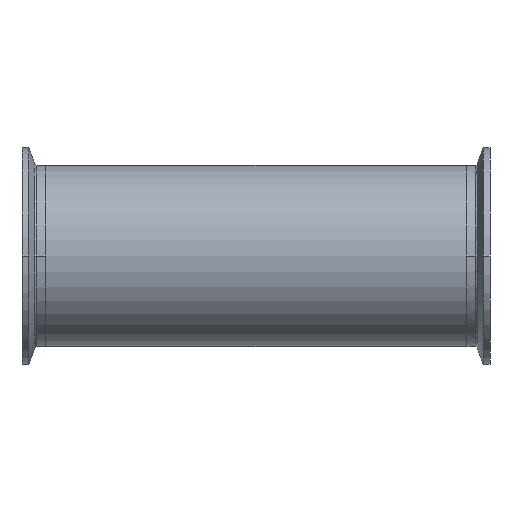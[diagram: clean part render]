
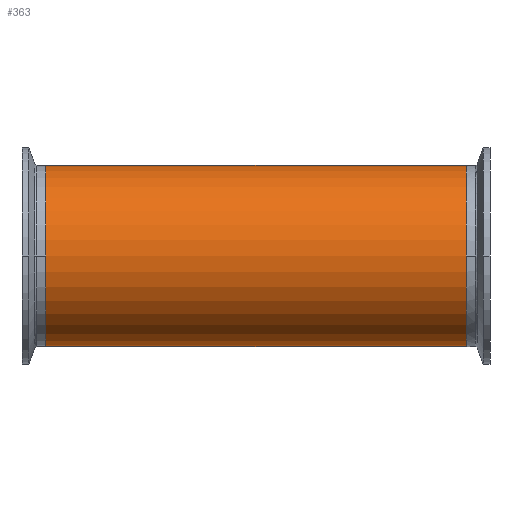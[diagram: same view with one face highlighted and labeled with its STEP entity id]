
A CAD part, front view. The second image highlights one B-rep face of the part: STEP entity #363.
In plain terms, the highlighted cylindrical face has radius 38.1 mm (diameter 76.2 mm), a partial arc.
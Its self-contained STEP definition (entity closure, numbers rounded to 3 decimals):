
#34 = ORIENTED_EDGE ( 'NONE', *, *, #2453, .T. ) ;
#363 = ADVANCED_FACE ( 'NONE', ( #4173 ), #1516, .T. ) ;
#380 = EDGE_CURVE ( 'NONE', #3259, #1761, #1721, .T. ) ;
#602 = DIRECTION ( 'NONE',  ( -1., 0., 0. ) ) ;
#626 = CARTESIAN_POINT ( 'NONE',  ( 196.163, 0., -38.1 ) ) ;
#704 = DIRECTION ( 'NONE',  ( 0., 0., 1. ) ) ;
#711 = CARTESIAN_POINT ( 'NONE',  ( 196.163, 0., 0. ) ) ;
#725 = DIRECTION ( 'NONE',  ( -1., 0., 0. ) ) ;
#741 = DIRECTION ( 'NONE',  ( -1., 0., 0. ) ) ;
#831 = CARTESIAN_POINT ( 'NONE',  ( 88.4, 0., 38.1 ) ) ;
#1024 = LINE ( 'NONE', #3992, #1852 ) ;
#1187 = CARTESIAN_POINT ( 'NONE',  ( 88.4, 0., 0. ) ) ;
#1463 = AXIS2_PLACEMENT_3D ( 'NONE', #711, #725, #704 ) ;
#1505 = CARTESIAN_POINT ( 'NONE',  ( -88.4, 0., -38.1 ) ) ;
#1516 = CYLINDRICAL_SURFACE ( 'NONE', #1463, 38.1 ) ;
#1550 = DIRECTION ( 'NONE',  ( 0., 0., 1. ) ) ;
#1553 = EDGE_LOOP ( 'NONE', ( #4175, #3886, #3791, #34 ) ) ;
#1563 = CARTESIAN_POINT ( 'NONE',  ( -88.4, 0., 0. ) ) ;
#1721 = LINE ( 'NONE', #626, #3218 ) ;
#1761 = VERTEX_POINT ( 'NONE', #1505 ) ;
#1852 = VECTOR ( 'NONE', #741, 1000. ) ;
#1867 = AXIS2_PLACEMENT_3D ( 'NONE', #1187, #3485, #1550 ) ;
#1911 = DIRECTION ( 'NONE',  ( 0., 0., 1. ) ) ;
#2095 = CIRCLE ( 'NONE', #1867, 38.1 ) ;
#2178 = EDGE_CURVE ( 'NONE', #4134, #2493, #1024, .T. ) ;
#2210 = CIRCLE ( 'NONE', #3040, 38.1 ) ;
#2453 = EDGE_CURVE ( 'NONE', #2493, #1761, #2210, .T. ) ;
#2493 = VERTEX_POINT ( 'NONE', #4124 ) ;
#3040 = AXIS2_PLACEMENT_3D ( 'NONE', #1563, #3818, #1911 ) ;
#3218 = VECTOR ( 'NONE', #602, 1000. ) ;
#3259 = VERTEX_POINT ( 'NONE', #3298 ) ;
#3298 = CARTESIAN_POINT ( 'NONE',  ( 88.4, 0., -38.1 ) ) ;
#3485 = DIRECTION ( 'NONE',  ( -1., 0., 0. ) ) ;
#3791 = ORIENTED_EDGE ( 'NONE', *, *, #2178, .T. ) ;
#3818 = DIRECTION ( 'NONE',  ( 1., 0., 0. ) ) ;
#3886 = ORIENTED_EDGE ( 'NONE', *, *, #4159, .T. ) ;
#3992 = CARTESIAN_POINT ( 'NONE',  ( 196.163, 0., 38.1 ) ) ;
#4124 = CARTESIAN_POINT ( 'NONE',  ( -88.4, 0., 38.1 ) ) ;
#4134 = VERTEX_POINT ( 'NONE', #831 ) ;
#4159 = EDGE_CURVE ( 'NONE', #3259, #4134, #2095, .T. ) ;
#4173 = FACE_OUTER_BOUND ( 'NONE', #1553, .T. ) ;
#4175 = ORIENTED_EDGE ( 'NONE', *, *, #380, .F. ) ;
